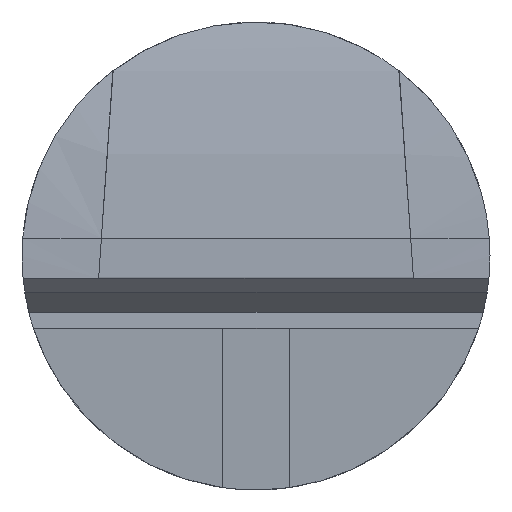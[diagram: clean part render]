
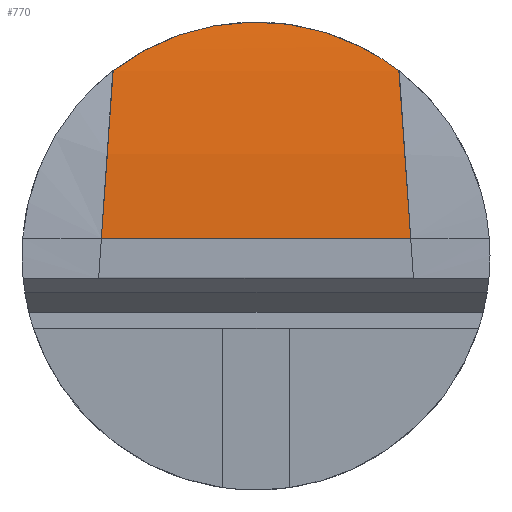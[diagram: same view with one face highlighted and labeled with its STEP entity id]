
A CAD part, top view. The second image highlights one B-rep face of the part: STEP entity #770.
In plain terms, the highlighted cylindrical face has radius 30.643 mm (diameter 61.287 mm), a partial arc.
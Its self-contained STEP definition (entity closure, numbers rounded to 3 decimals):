
#20 = CARTESIAN_POINT ( 'NONE',  ( -3.97, -45.828, 26.116 ) ) ;
#35 = CARTESIAN_POINT ( 'NONE',  ( -0.382, -44.606, 25.877 ) ) ;
#69 = CYLINDRICAL_SURFACE ( 'NONE', #1022, 30.643 ) ;
#80 = CARTESIAN_POINT ( 'NONE',  ( 4.273, -46.061, 26.155 ) ) ;
#97 = CARTESIAN_POINT ( 'NONE',  ( 15., -51.075, 26.568 ) ) ;
#107 = CARTESIAN_POINT ( 'NONE',  ( -4.508, -49.396, 26.568 ) ) ;
#123 = ORIENTED_EDGE ( 'NONE', *, *, #254, .F. ) ;
#181 = EDGE_CURVE ( 'NONE', #1041, #532, #1206, .T. ) ;
#254 = EDGE_CURVE ( 'NONE', #532, #1110, #545, .T. ) ;
#268 = B_SPLINE_CURVE_WITH_KNOTS ( 'NONE', 3,
 ( #494, #20, #769, #889, #405, #878, #1083, #671, #982, #582, #35, #587, #304, #511, #320, #1193, #506, #884, #310, #576 ),
 .UNSPECIFIED., .F., .F.,
 ( 4, 2, 2, 2, 2, 2, 2, 2, 2, 4 ),
 ( 0.029, 0.03, 0.031, 0.031, 0.032, 0.033, 0.035, 0.036, 0.037, 0.038 ),
 .UNSPECIFIED. ) ;
#282 = CARTESIAN_POINT ( 'NONE',  ( 4.273, -46.061, 26.155 ) ) ;
#283 = B_SPLINE_CURVE_WITH_KNOTS ( 'NONE', 3,
 ( #80, #455, #328, #332 ),
 .UNSPECIFIED., .F., .F.,
 ( 4, 4 ),
 ( 0.189, 0.847 ),
 .UNSPECIFIED. ) ;
#300 = EDGE_CURVE ( 'NONE', #1110, #600, #268, .T. ) ;
#304 = CARTESIAN_POINT ( 'NONE',  ( 0.763, -44.637, 25.884 ) ) ;
#310 = CARTESIAN_POINT ( 'NONE',  ( 3.971, -45.829, 26.116 ) ) ;
#320 = CARTESIAN_POINT ( 'NONE',  ( 1.898, -44.858, 25.931 ) ) ;
#321 = ORIENTED_EDGE ( 'NONE', *, *, #502, .F. ) ;
#328 = CARTESIAN_POINT ( 'NONE',  ( 4.509, -49.396, 26.568 ) ) ;
#329 = CARTESIAN_POINT ( 'NONE',  ( 4.628, -51.075, 26.568 ) ) ;
#332 = CARTESIAN_POINT ( 'NONE',  ( 4.628, -51.075, 26.568 ) ) ;
#345 = DIRECTION ( 'NONE',  ( 0., 0., 1. ) ) ;
#368 = CARTESIAN_POINT ( 'NONE',  ( -4.626, -51.075, 26.568 ) ) ;
#405 = CARTESIAN_POINT ( 'NONE',  ( -2.97, -45.265, 26.012 ) ) ;
#455 = CARTESIAN_POINT ( 'NONE',  ( 4.391, -47.717, 26.429 ) ) ;
#474 = DIRECTION ( 'NONE',  ( -1., 0., 0. ) ) ;
#494 = CARTESIAN_POINT ( 'NONE',  ( -4.271, -46.06, 26.155 ) ) ;
#502 = EDGE_CURVE ( 'NONE', #600, #1041, #283, .T. ) ;
#506 = CARTESIAN_POINT ( 'NONE',  ( 2.971, -45.256, 26.011 ) ) ;
#511 = CARTESIAN_POINT ( 'NONE',  ( 1.521, -44.763, 25.911 ) ) ;
#532 = VERTEX_POINT ( 'NONE', #747 ) ;
#545 = B_SPLINE_CURVE_WITH_KNOTS ( 'NONE', 3,
 ( #368, #107, #861, #765 ),
 .UNSPECIFIED., .F., .F.,
 ( 4, 4 ),
 ( 0.153, 0.811 ),
 .UNSPECIFIED. ) ;
#576 = CARTESIAN_POINT ( 'NONE',  ( 4.273, -46.061, 26.155 ) ) ;
#582 = CARTESIAN_POINT ( 'NONE',  ( -0.771, -44.638, 25.884 ) ) ;
#587 = CARTESIAN_POINT ( 'NONE',  ( 0.383, -44.606, 25.877 ) ) ;
#600 = VERTEX_POINT ( 'NONE', #282 ) ;
#604 = FACE_OUTER_BOUND ( 'NONE', #1217, .T. ) ;
#671 = CARTESIAN_POINT ( 'NONE',  ( -1.898, -44.858, 25.931 ) ) ;
#726 = ORIENTED_EDGE ( 'NONE', *, *, #300, .F. ) ;
#747 = CARTESIAN_POINT ( 'NONE',  ( -4.626, -51.075, 26.568 ) ) ;
#765 = CARTESIAN_POINT ( 'NONE',  ( -4.271, -46.06, 26.155 ) ) ;
#769 = CARTESIAN_POINT ( 'NONE',  ( -3.651, -45.621, 26.079 ) ) ;
#770 = ADVANCED_FACE ( 'NONE', ( #604 ), #69, .T. ) ;
#796 = VECTOR ( 'NONE', #474, 1000. ) ;
#797 = ORIENTED_EDGE ( 'NONE', *, *, #181, .F. ) ;
#861 = CARTESIAN_POINT ( 'NONE',  ( -4.39, -47.717, 26.429 ) ) ;
#878 = CARTESIAN_POINT ( 'NONE',  ( -2.618, -45.111, 25.982 ) ) ;
#884 = CARTESIAN_POINT ( 'NONE',  ( 3.645, -45.618, 26.079 ) ) ;
#889 = CARTESIAN_POINT ( 'NONE',  ( -3.144, -45.349, 26.028 ) ) ;
#982 = CARTESIAN_POINT ( 'NONE',  ( -1.528, -44.764, 25.911 ) ) ;
#1022 = AXIS2_PLACEMENT_3D ( 'NONE', #1226, #1023, #345 ) ;
#1023 = DIRECTION ( 'NONE',  ( -1., 0., 0. ) ) ;
#1041 = VERTEX_POINT ( 'NONE', #329 ) ;
#1083 = CARTESIAN_POINT ( 'NONE',  ( -2.44, -45.042, 25.968 ) ) ;
#1100 = CARTESIAN_POINT ( 'NONE',  ( -4.271, -46.06, 26.155 ) ) ;
#1110 = VERTEX_POINT ( 'NONE', #1100 ) ;
#1193 = CARTESIAN_POINT ( 'NONE',  ( 2.621, -45.104, 25.981 ) ) ;
#1206 = LINE ( 'NONE', #97, #796 ) ;
#1217 = EDGE_LOOP ( 'NONE', ( #797, #321, #726, #123 ) ) ;
#1226 = CARTESIAN_POINT ( 'NONE',  ( 15., -51.075, -4.076 ) ) ;
